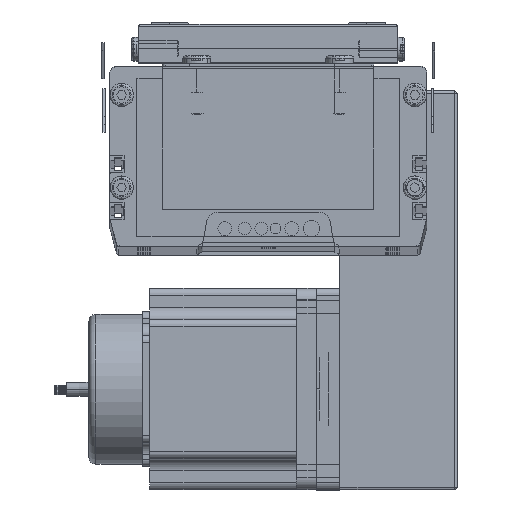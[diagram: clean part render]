
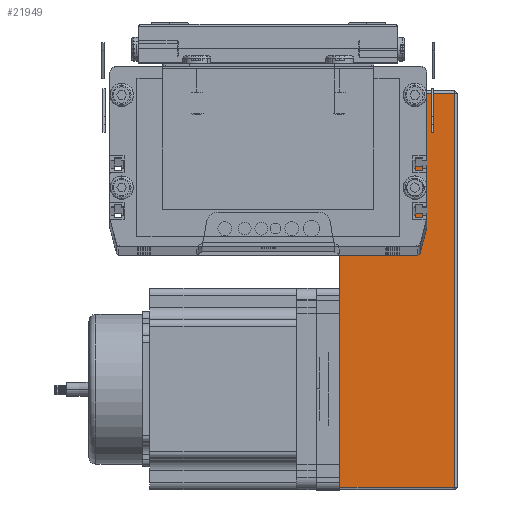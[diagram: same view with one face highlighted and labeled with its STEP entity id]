
A CAD part, top view. The second image highlights one B-rep face of the part: STEP entity #21949.
In plain terms, the highlighted planar face has unit normal (0, 0, 1) as drawn and (0, 1, 0) by its records, which use the part's own axes.
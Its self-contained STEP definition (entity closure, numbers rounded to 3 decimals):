
#953 = DIRECTION ( 'NONE',  ( -1., 0., 0. ) ) ;
#954 = VECTOR ( 'NONE', #953, 1000. ) ;
#955 = CARTESIAN_POINT ( 'NONE',  ( 0., 70., 0. ) ) ;
#956 = LINE ( 'NONE', #955, #954 ) ;
#2353 = CARTESIAN_POINT ( 'NONE',  ( 80.439, 70., 0. ) ) ;
#2354 = CARTESIAN_POINT ( 'NONE',  ( 169., 70., 0. ) ) ;
#2358 = CARTESIAN_POINT ( 'NONE',  ( 85.9, 70., 0. ) ) ;
#2359 = CARTESIAN_POINT ( 'NONE',  ( 74.961, 70., 0. ) ) ;
#2502 = CARTESIAN_POINT ( 'NONE',  ( 0., 70., 0. ) ) ;
#2503 = LINE ( 'NONE', #2502, #2571 ) ;
#2563 = DIRECTION ( 'NONE',  ( 0., 0., -1. ) ) ;
#2564 = VECTOR ( 'NONE', #2563, 1000. ) ;
#2568 = CARTESIAN_POINT ( 'NONE',  ( 169., 70., 50. ) ) ;
#2569 = LINE ( 'NONE', #2568, #2564 ) ;
#2570 = DIRECTION ( 'NONE',  ( 1., 0., 0. ) ) ;
#2571 = VECTOR ( 'NONE', #2570, 1000. ) ;
#6137 = DIRECTION ( 'NONE',  ( 1., 0., 0. ) ) ;
#6138 = VECTOR ( 'NONE', #6137, 1000. ) ;
#6139 = CARTESIAN_POINT ( 'NONE',  ( 0., 70., 49. ) ) ;
#6140 = LINE ( 'NONE', #6139, #6138 ) ;
#6146 = CARTESIAN_POINT ( 'NONE',  ( 5.418, 70., 0. ) ) ;
#6297 = DIRECTION ( 'NONE',  ( 0., 0., 1. ) ) ;
#6298 = VECTOR ( 'NONE', #6297, 1000. ) ;
#6299 = CARTESIAN_POINT ( 'NONE',  ( 1., 70., 50. ) ) ;
#6302 = LINE ( 'NONE', #6299, #6298 ) ;
#6450 = AXIS2_PLACEMENT_3D ( 'NONE', #6473, #6472, #6471 ) ;
#6455 = FACE_OUTER_BOUND ( 'NONE', #21688, .T. ) ;
#6471 = DIRECTION ( 'NONE',  ( 0., 0., -1. ) ) ;
#6472 = DIRECTION ( 'NONE',  ( 0., -1., 0. ) ) ;
#6473 = CARTESIAN_POINT ( 'NONE',  ( 0., 70., 50. ) ) ;
#6475 = LINE ( 'NONE', #6526, #6525 ) ;
#6480 = DIRECTION ( 'NONE',  ( 1., 0., 0. ) ) ;
#6481 = VECTOR ( 'NONE', #6480, 1000. ) ;
#6494 = PLANE ( 'NONE',  #6450 ) ;
#6498 = DIRECTION ( 'NONE',  ( 1., 0., 0. ) ) ;
#6499 = VECTOR ( 'NONE', #6498, 1000. ) ;
#6500 = CARTESIAN_POINT ( 'NONE',  ( 0., 70., 0. ) ) ;
#6501 = LINE ( 'NONE', #6500, #6499 ) ;
#6504 = CARTESIAN_POINT ( 'NONE',  ( 10.902, 70., 0. ) ) ;
#6505 = DIRECTION ( 'NONE',  ( 1., 0., 0. ) ) ;
#6506 = VECTOR ( 'NONE', #6505, 1000. ) ;
#6507 = CARTESIAN_POINT ( 'NONE',  ( 0., 70., 0. ) ) ;
#6508 = CARTESIAN_POINT ( 'NONE',  ( 1., 70., 49. ) ) ;
#6511 = LINE ( 'NONE', #6507, #6506 ) ;
#6512 = CARTESIAN_POINT ( 'NONE',  ( 169., 70., 49. ) ) ;
#6520 = CARTESIAN_POINT ( 'NONE',  ( 1., 70., 0. ) ) ;
#6522 = CARTESIAN_POINT ( 'NONE',  ( 0., 70., 0. ) ) ;
#6523 = LINE ( 'NONE', #6522, #6481 ) ;
#6524 = DIRECTION ( 'NONE',  ( 1., 0., 0. ) ) ;
#6525 = VECTOR ( 'NONE', #6524, 1000. ) ;
#6526 = CARTESIAN_POINT ( 'NONE',  ( 0., 70., 0. ) ) ;
#21469 = EDGE_CURVE ( 'NONE', #21699, #21700, #956, .T. ) ;
#21688 = EDGE_LOOP ( 'NONE', ( #21951, #21799, #21948, #21952, #21955, #21862, #21960, #21795, #21793 ) ) ;
#21695 = VERTEX_POINT ( 'NONE', #2359 ) ;
#21696 = VERTEX_POINT ( 'NONE', #2353 ) ;
#21699 = VERTEX_POINT ( 'NONE', #2354 ) ;
#21700 = VERTEX_POINT ( 'NONE', #2358 ) ;
#21779 = EDGE_CURVE ( 'NONE', #21954, #21802, #2503, .T. ) ;
#21781 = EDGE_CURVE ( 'NONE', #21961, #21699, #2569, .T. ) ;
#21793 = ORIENTED_EDGE ( 'NONE', *, *, #21781, .T. ) ;
#21794 = EDGE_CURVE ( 'NONE', #21962, #21961, #6140, .T. ) ;
#21795 = ORIENTED_EDGE ( 'NONE', *, *, #21794, .T. ) ;
#21799 = ORIENTED_EDGE ( 'NONE', *, *, #21950, .F. ) ;
#21802 = VERTEX_POINT ( 'NONE', #6146 ) ;
#21862 = ORIENTED_EDGE ( 'NONE', *, *, #21779, .F. ) ;
#21863 = EDGE_CURVE ( 'NONE', #21954, #21962, #6302, .T. ) ;
#21948 = ORIENTED_EDGE ( 'NONE', *, *, #21953, .F. ) ;
#21949 = ADVANCED_FACE ( 'NONE', ( #6455 ), #6494, .F. ) ;
#21950 = EDGE_CURVE ( 'NONE', #21696, #21700, #6475, .T. ) ;
#21951 = ORIENTED_EDGE ( 'NONE', *, *, #21469, .T. ) ;
#21952 = ORIENTED_EDGE ( 'NONE', *, *, #21959, .F. ) ;
#21953 = EDGE_CURVE ( 'NONE', #21695, #21696, #6523, .T. ) ;
#21954 = VERTEX_POINT ( 'NONE', #6520 ) ;
#21955 = ORIENTED_EDGE ( 'NONE', *, *, #21963, .F. ) ;
#21959 = EDGE_CURVE ( 'NONE', #21964, #21695, #6511, .T. ) ;
#21960 = ORIENTED_EDGE ( 'NONE', *, *, #21863, .T. ) ;
#21961 = VERTEX_POINT ( 'NONE', #6512 ) ;
#21962 = VERTEX_POINT ( 'NONE', #6508 ) ;
#21963 = EDGE_CURVE ( 'NONE', #21802, #21964, #6501, .T. ) ;
#21964 = VERTEX_POINT ( 'NONE', #6504 ) ;
